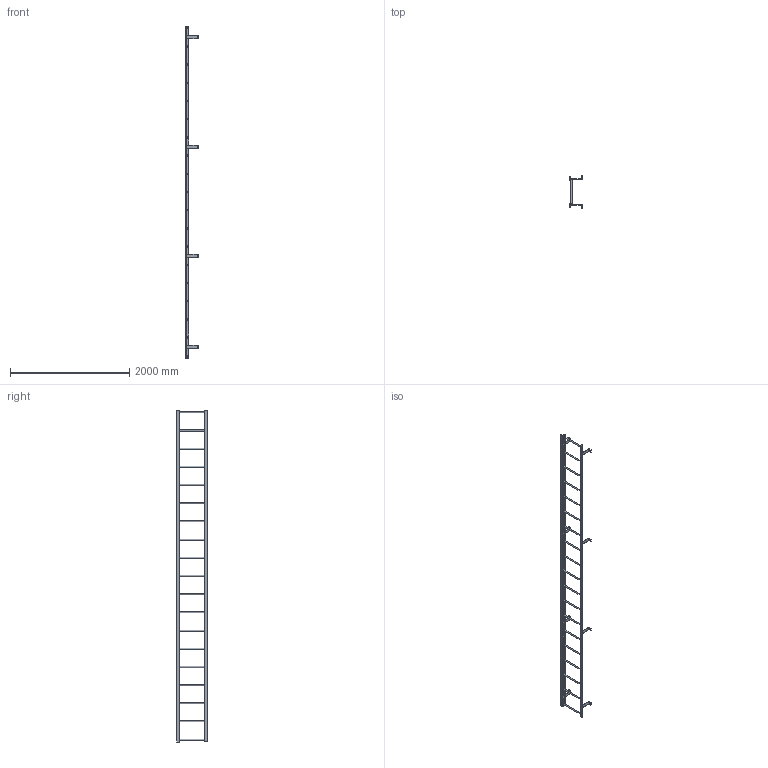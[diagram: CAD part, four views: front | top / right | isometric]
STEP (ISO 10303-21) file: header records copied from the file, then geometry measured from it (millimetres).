
FILE_DESCRIPTION(/* description */ (''),/* implementation_level */ '2;1');
FILE_NAME(/* name */ 'P:\MIKEL & KAREN\3570219 F19S SIMPLIFIED PART .stp',/* time_stamp */ '2018-07-02T15:38:57-04:00',/* author */ ('stephanie'),/* organization */ (''),/* preprocessor_version */ 'ST-DEVELOPER v16.1',/* originating_system */ 'Autodesk Inventor 2016',/* authorisation */ '');
FILE_SCHEMA (('AUTOMOTIVE_DESIGN { 1 0 10303 214 3 1 1 }'));
Length unit declared in the file: centimetre
Products named in the file (1): 3570219 F19S SIMPLIFIED PART 
Bounding box: 203.33 x 533.25 x 5562.6 mm (x, y, z)
Volume: 9567621 mm3; surface area: 2870973.9 mm2
Topology: 21 solids, 21 shells, 231 faces, 597 edges, 408 vertices
Faces by surface type: plane 127, cylinder 104
Full cylindrical faces by diameter (mm): 14.287 x8, 19.05 x19, 22.225 x38
Entity records: 6856 total; most frequent: DIRECTION 1174, CARTESIAN_POINT 1080, ORIENTED_EDGE 972, EDGE_CURVE 486, AXIS2_PLACEMENT_3D 456, EDGE_LOOP 388, VERTEX_POINT 362, LINE 262
